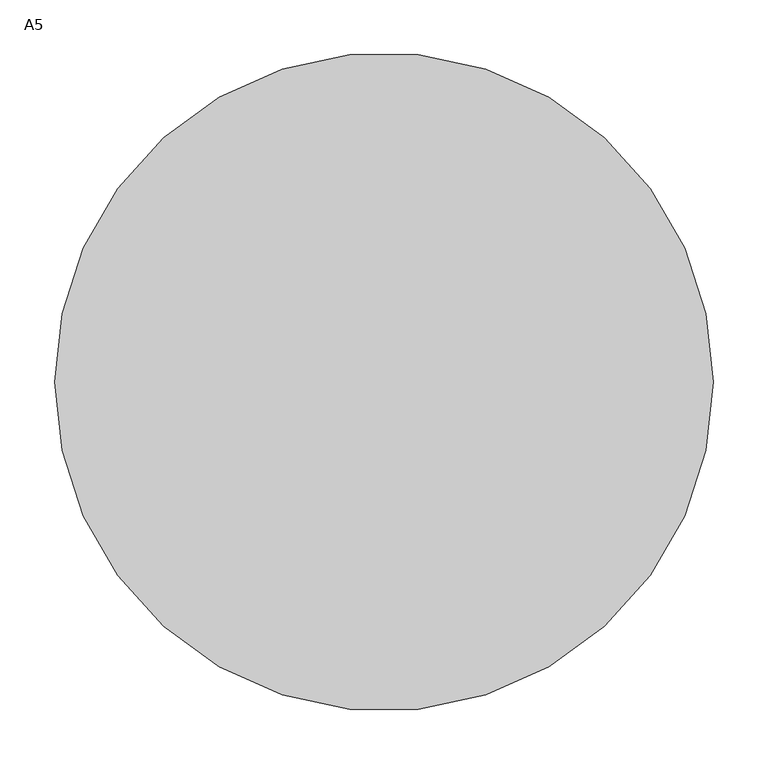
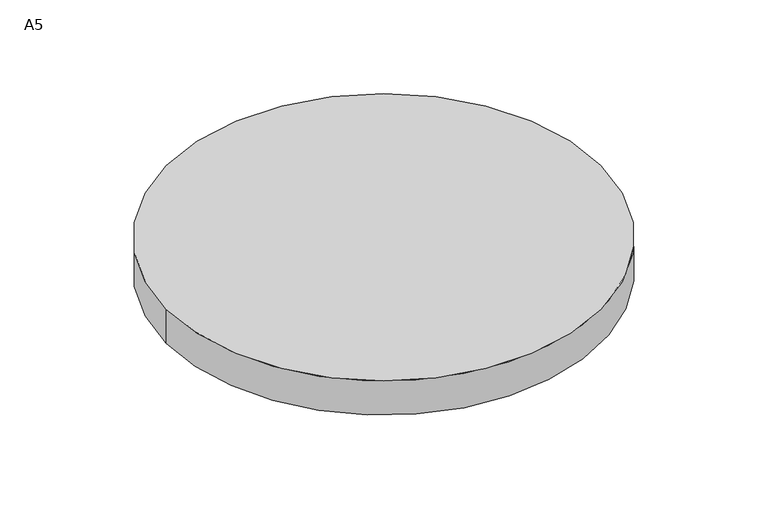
"""IFC4 building model written with IfcOpenShell, lengths in millimetres: light fixture geometry, AI_Luminaire_Circulaire plafonnier : A5."""

from ifc_helpers import new_model, si_unit, point, frame, origin, origin_2d, place, context, project, spatial, circle_curve, trimmed, segment, composite_curve, outline, extrude, source, transform, mapped, element, save


def a5_82b938c5(model_context):
    return source(origin(), model_context, "Body", "SweptSolid", [
        extrude(outline(composite_curve([segment(trimmed(circle_curve(origin_2d(), 300.0), [point((-300.0, 0.0))], [point((300.0, 0.0))], False, "CARTESIAN"), True, "CONTINUOUS"), segment(trimmed(circle_curve(origin_2d(), 300.0), [point((300.0, 0.0))], [point((-300.0, 0.0))], False, "CARTESIAN"), True, "CONTINUOUS")], self_intersect=False)), frame((0.0, 0.0, -50.0), z_axis=(0.0, 0.0, 1.0), x_axis=(1.0, 0.0, 0.0)), (0.0, 0.0, 1.0), 50.0),
    ])


if __name__ == "__main__":
    model = new_model("IFC4")
    model_context = context("Model", 3, world=origin())
    ifc_project = project(units=[si_unit("LENGTHUNIT", "METRE", prefix="MILLI")], contexts=[model_context])
    site = spatial("IfcSite", under=ifc_project)
    building = spatial("IfcBuilding", under=site)
    placement = place(None, origin())
    a5_shape = a5_82b938c5(model_context)
    element("IfcLightFixture", 1, ObjectType="AI_Luminaire_Circulaire plafonnier : A5", at=placement, inside=building, context=model_context, shape_type="MappedRepresentation", body=[
        mapped(a5_shape, transform((0.0, 0.0, 0.0), x_axis=(1.0, 0.0, 0.0), y_axis=(0.0, 1.0, 0.0), z_axis=(0.0, 0.0, 1.0))),
    ])
    save(model, "model.ifc")
